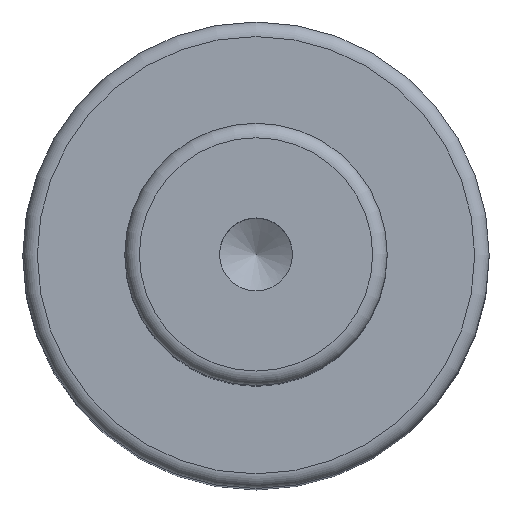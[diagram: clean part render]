
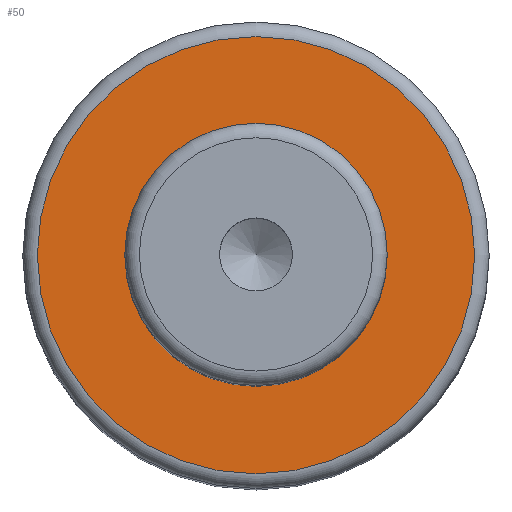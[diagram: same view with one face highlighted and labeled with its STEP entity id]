
A CAD part, top view. The second image highlights one B-rep face of the part: STEP entity #50.
In plain terms, the highlighted planar face has unit normal (0, 0, 1).
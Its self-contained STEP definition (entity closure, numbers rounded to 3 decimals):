
#40=PLANE('',#179);
#50=ADVANCED_FACE('',(#72,#73),#40,.F.);
#72=FACE_BOUND('',#96,.T.);
#73=FACE_BOUND('',#97,.T.);
#96=EDGE_LOOP('',(#118));
#97=EDGE_LOOP('',(#119));
#118=ORIENTED_EDGE('',*,*,#149,.F.);
#119=ORIENTED_EDGE('',*,*,#148,.T.);
#135=VERTEX_POINT('',#256);
#136=VERTEX_POINT('',#259);
#148=EDGE_CURVE('',#135,#135,#159,.T.);
#149=EDGE_CURVE('',#136,#136,#160,.T.);
#159=CIRCLE('',#176,9.);
#160=CIRCLE('',#178,15.);
#176=AXIS2_PLACEMENT_3D('',#255,#213,#214);
#178=AXIS2_PLACEMENT_3D('',#258,#217,#218);
#179=AXIS2_PLACEMENT_3D('',#260,#219,#220);
#213=DIRECTION('',(0.,0.,-1.));
#214=DIRECTION('',(-1.,0.,0.));
#217=DIRECTION('',(0.,0.,-1.));
#218=DIRECTION('',(-1.,0.,0.));
#219=DIRECTION('',(0.,0.,-1.));
#220=DIRECTION('',(-1.,0.,0.));
#255=CARTESIAN_POINT('',(0.,0.,61.));
#256=CARTESIAN_POINT('',(-9.,0.,61.));
#258=CARTESIAN_POINT('',(0.,0.,61.));
#259=CARTESIAN_POINT('',(-15.,0.,61.));
#260=CARTESIAN_POINT('',(9.,0.,61.));
